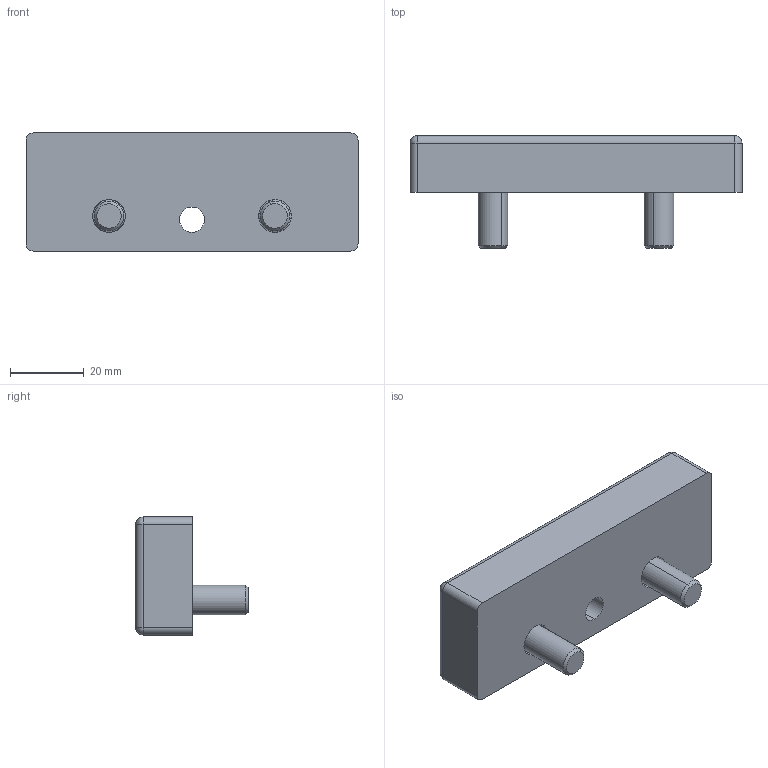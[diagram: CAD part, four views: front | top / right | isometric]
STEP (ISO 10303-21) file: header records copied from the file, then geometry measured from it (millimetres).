
FILE_DESCRIPTION (( 'STEP AP214' ), '1' );
FILE_NAME ('1.5004 Kierrelevy 32x90 M8.STEP', '2025-09-16T07:19:50', ( '' ), ( '' ), 'SwSTEP 2.0', 'SolidWorks 2025', '' );
FILE_SCHEMA (( 'AUTOMOTIVE_DESIGN' ));
Length unit declared in the file: millimetre
Products named in the file (1): 1.5004 Kierrelevy 32x90 M8
Bounding box: 90 x 30.5 x 32 mm (x, y, z)
Volume: 43823.8 mm3; surface area: 12551.3 mm2
Topology: 3 solids, 3 shells, 86 faces, 190 edges, 108 vertices
Faces by surface type: plane 38, cylinder 26, cone 10, torus 8, sphere 4
Entity records: 3291 total; most frequent: DIRECTION 442, CARTESIAN_POINT 377, ORIENTED_EDGE 364, EDGE_CURVE 182, AXIS2_PLACEMENT_3D 173, VERTEX_POINT 108, EDGE_LOOP 98, VECTOR 96
